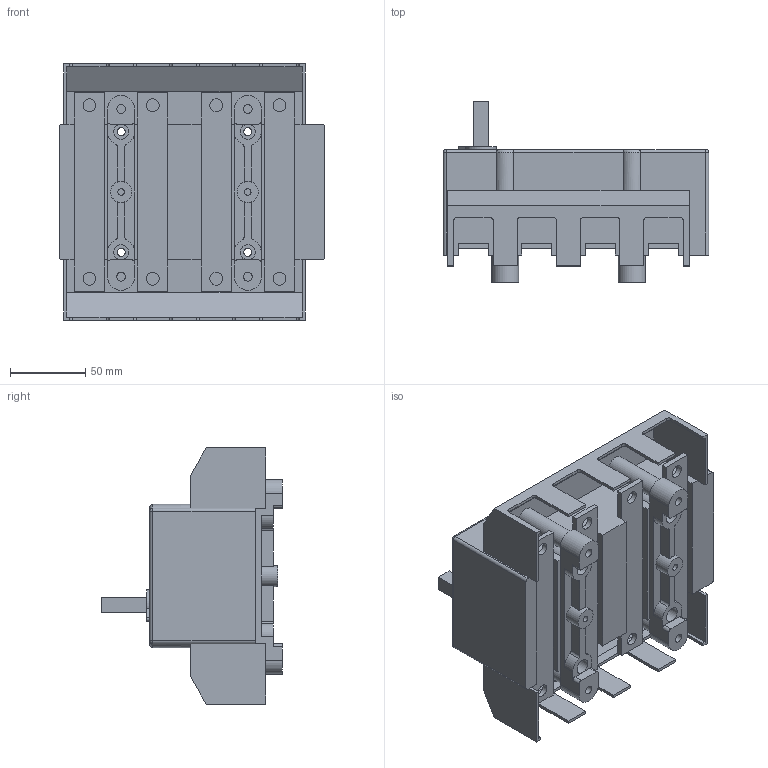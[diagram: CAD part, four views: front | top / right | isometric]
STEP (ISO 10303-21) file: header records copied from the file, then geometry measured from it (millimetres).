
FILE_DESCRIPTION(/* description */ (''),/* implementation_level */ '2;1');
FILE_NAME(/* name */ 'RA250 P3 N z oslona zaciskow.stp',/* time_stamp */ '2021-08-18T07:46:57+02:00',/* author */ (''),/* organization */ (''),/* preprocessor_version */ 'ST-DEVELOPER v18.1',/* originating_system */ 'SIEMENS PLM Software NX 1965',/* authorisation */ '');
FILE_SCHEMA (('AUTOMOTIVE_DESIGN { 1 0 10303 214 3 1 1 1 }'));
Length unit declared in the file: millimetre
Products named in the file (1): RA250 P3 N z oslona zaciskow_stp
Bounding box: 176 x 120 x 169.8 mm (x, y, z)
Volume: 1206293.5 mm3; surface area: 159303.1 mm2
Topology: 1 solids, 1 shells, 292 faces, 846 edges, 550 vertices
Faces by surface type: plane 178, cylinder 106, torus 4, sphere 4
Full cylindrical faces by diameter (mm): 4.3 x2, 5.3 x4, 5.8 x4, 8.5 x8, 10 x12, 13 x4, 14 x2
Entity records: 9300 total; most frequent: CARTESIAN_POINT 1641, DIRECTION 1586, ORIENTED_EDGE 1556, EDGE_CURVE 778, LINE 540, VECTOR 540, AXIS2_PLACEMENT_3D 523, VERTEX_POINT 522
